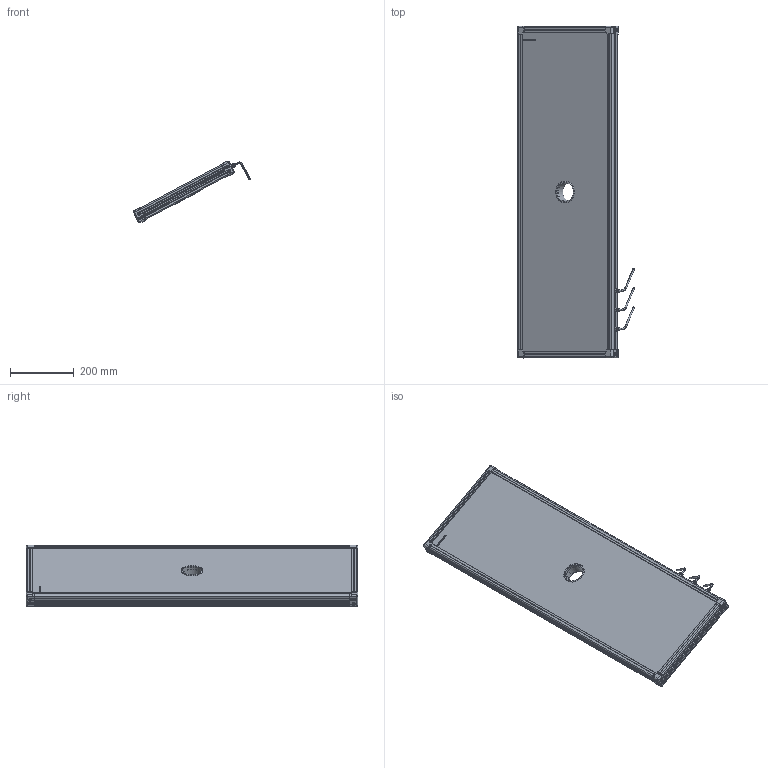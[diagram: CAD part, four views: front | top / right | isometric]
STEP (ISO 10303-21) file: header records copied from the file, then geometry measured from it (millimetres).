
FILE_DESCRIPTION (( 'STEP AP214' ), '1' );
FILE_NAME ('EFFI-BL-300-1000-XXX-3M12.STEP', '2021-06-22T12:06:55', ( '' ), ( '' ), 'SwSTEP 2.0', 'SolidWorks 2021', '' );
FILE_SCHEMA (( 'AUTOMOTIVE_DESIGN' ));
Length unit declared in the file: millimetre
Products named in the file (13): profile X_PERCE; 000629; Pièce13^EFFI-BL-XXX-YYY-ZZZ (3 connecteurs) Ø58.5; petite joue; cordon_Avec cable; Assemblage Ø58.5; 000590; 001038; profile Y_PERCE; EFFI-BL-300-1000-XXX-3M12; petite joue + vis; 001037
Assembly tree (21 placements, depth 3):
  EFFI-BL-300-1000-XXX-3M12
    profile X_PERCE  x2
    profile Y_PERCE
    profile Y_PERCE
    Pièce13^EFFI-BL-XXX-YYY-ZZZ (3 connecteurs) Ø58.5
    petite joue + vis  x4
      petite joue
      000629
    Assemblage Ø58.5
      001037
      001038
      000590  x3
    cordon_Avec cable  x3
Bounding box: 366.32 x 1039 x 193.94 mm (x, y, z)
Volume: 12103093.9 mm3; surface area: 1140564.5 mm2
Topology: 22 solids, 40 shells, 4123 faces, 10940 edges, 7177 vertices
Faces by surface type: plane 2536, cylinder 759, bspline 609, cone 156, torus 55, sphere 8
Entity records: 57210 total; most frequent: CARTESIAN_POINT 22824, ORIENTED_EDGE 7166, DIRECTION 5912, EDGE_CURVE 3587, LINE 2498, VECTOR 2498, VERTEX_POINT 2358, AXIS2_PLACEMENT_3D 1707
